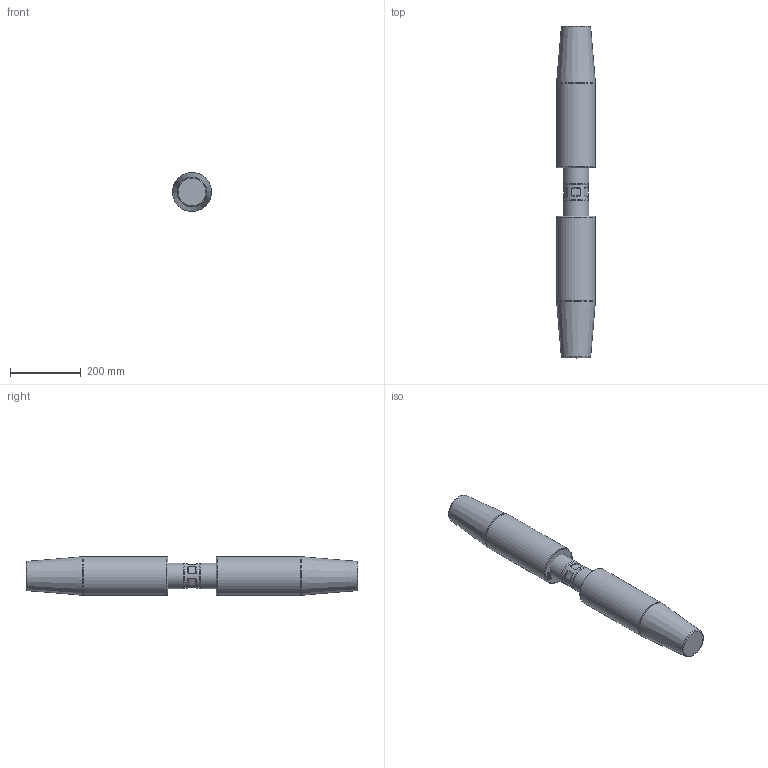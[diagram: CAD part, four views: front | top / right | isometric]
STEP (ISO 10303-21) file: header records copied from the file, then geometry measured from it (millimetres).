
FILE_DESCRIPTION(/* description */ (''),/* implementation_level */ '2;1');
FILE_NAME(/* name */ 'D:\Clienti\Redaelli (inventor)\CYA\STEP\Arrangement\CYA036 52 061 2.stp',/* time_stamp */ '2021-05-09T10:09:08+02:00',/* author */ ('fabri'),/* organization */ (''),/* preprocessor_version */ 'ST-DEVELOPER v16.13',/* originating_system */ 'Autodesk Inventor 2018',/* authorisation */ '');
FILE_SCHEMA (('AUTOMOTIVE_DESIGN { 1 0 10303 214 3 1 1 }'));
Length unit declared in the file: millimetre
Products named in the file (4): CYA012-54-062-0; TBF012-12-012-1; TBF012-13-012-0; TBF012-13-012-0_1
Assembly tree (3 placements, depth 2):
  CYA012-54-062-0
    TBF012-12-012-1
    TBF012-13-012-0
    TBF012-13-012-0_1
Bounding box: 109.92 x 940 x 109.92 mm (x, y, z)
Volume: 8647595.4 mm3; surface area: 396802.8 mm2
Topology: 3 solids, 3 shells, 530 faces, 1435 edges, 957 vertices
Faces by surface type: bspline 306, plane 195, cylinder 18, cone 7, torus 4
Full cylindrical faces by diameter (mm): 4.917 x1, 69 x1, 72 x2, 110 x2
Entity records: 18590 total; most frequent: CARTESIAN_POINT 7310, ORIENTED_EDGE 2834, EDGE_CURVE 1417, DIRECTION 1271, VERTEX_POINT 956, LINE 757, VECTOR 757, B_SPLINE_CURVE_WITH_KNOTS 632
